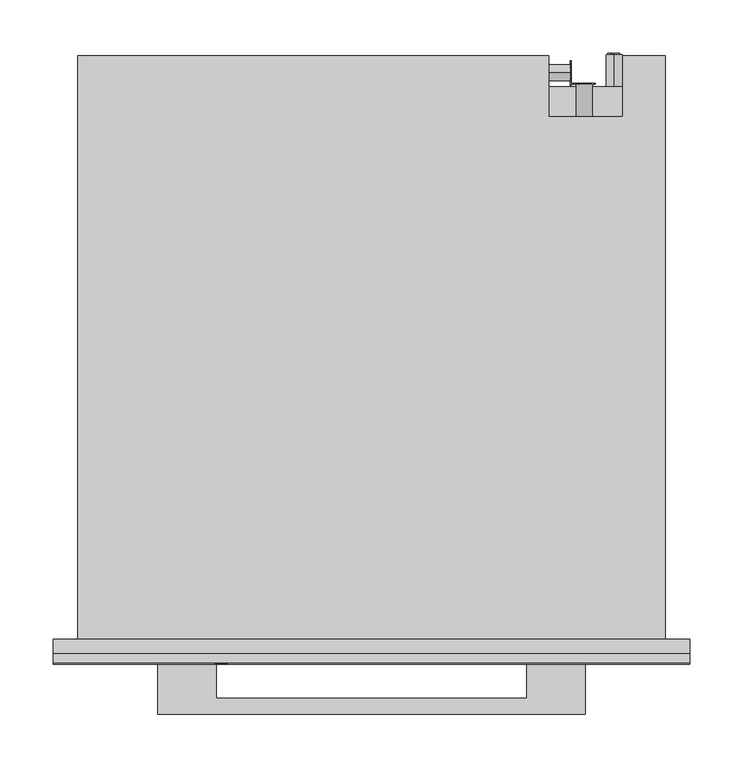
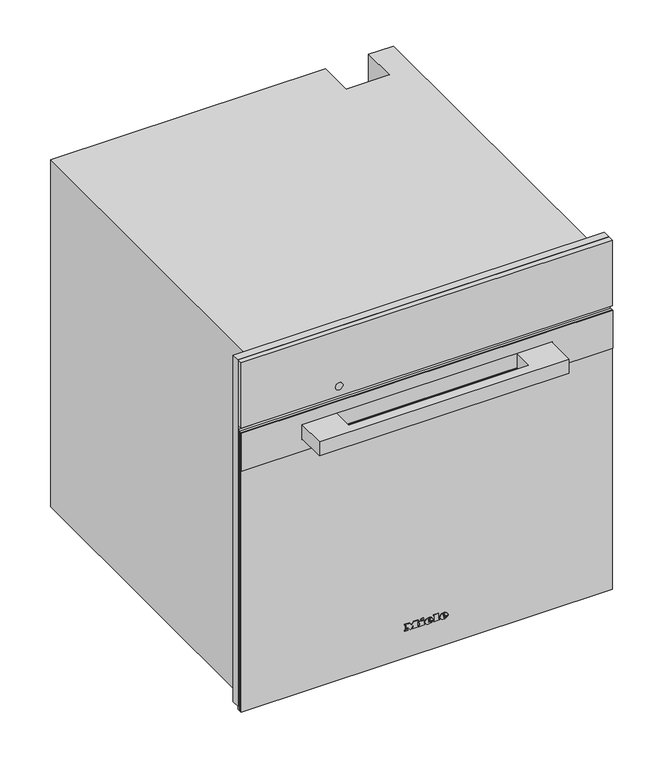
"""IFC4 building model written with IfcOpenShell, lengths in millimetres: proxy geometry, 11107330_D_DGC7865_EDST-CLST : 23786543_D_11107330_DGC7865_EDST-CLST."""

from ifc_helpers import new_model, si_unit, point, frame, frame_2d, origin, place, context, project, spatial, polyline, circle_curve, ellipse_curve, trimmed, segment, composite_curve, outline, extrude, faceted_brep, source, transform, mapped, element, save
from ifc_brep_helpers import plane_surface, cylinder_surface, revolved_surface, extruded_surface, advanced_brep


def specialty_equipment_59f3d35e(model_context):
    return source(origin(), model_context, "Body", "SolidModel", [
        extrude(outline(polyline([(596.0, 297.5), (596.0, -297.5), (9.0, -297.5), (9.0, 297.5), (596.0, 297.5)]), holes=[polyline([(485.0, -272.5), (485.0, 272.5), (27.0, 272.5), (27.0, -272.5), (485.0, -272.5)])]), frame((0.0, -13.0, 0.0), z_axis=(0.0, 1.0, 0.0), x_axis=(0.0, 0.0, 1.0)), (0.0, 0.0, 1.0), 13.0),
        extrude(outline(polyline([(523.0, 196.9217896), (523.0, 198.4267862), (533.0435673, 201.1942402), (533.0435673, 199.9014806), (524.4295103, 197.7797951), (533.0470645, 195.3087512), (533.0470645, 193.4373937), (524.4121052, 190.9191482), (533.0472266, 188.8443938), (533.0472266, 187.5376524), (523.0, 190.2769667), (523.0, 191.6257455), (531.8347238, 194.3884733), (523.0, 196.9217896)])), frame((0.0, 519.0, 0.0), z_axis=(0.0, 1.0, 0.0), x_axis=(0.0, 0.0, 1.0)), (0.0, 0.0, 1.0), 1.0),
        extrude(outline(polyline([(533.0468463, 209.521488), (533.0468463, 208.2566067), (528.129594, 208.2566067), (533.0474898, 203.1074328), (533.0474898, 201.3597489), (528.9313111, 205.6695027), (523.0, 201.1858157), (523.0, 202.7358731), (528.0700777, 206.5685235), (526.4282746, 208.2823622), (523.0, 208.2823622), (523.0, 209.521488), (533.0468463, 209.521488)])), frame((0.0, 519.0, 0.0), z_axis=(0.0, 1.0, 0.0), x_axis=(0.0, 0.0, 1.0)), (0.0, 0.0, 1.0), 1.0),
        extrude(outline(polyline([(518.3136153, 20.0), (522.323529, 30.045631), (523.3928394, 30.045631), (527.4027531, 20.0), (526.0759254, 20.0), (524.925681, 23.1392597), (520.7882348, 23.1392597), (519.640443, 20.0), (518.3136153, 20.0)]), holes=[polyline([(521.2493136, 24.3949636), (524.4670548, 24.3949636), (523.5620651, 26.864678), (522.8581842, 28.7899271), (522.2327848, 27.0805021), (521.2493136, 24.3949636)])]), frame((186.0, 0.0, 0.0), z_axis=(1.0, 0.0, 0.0), x_axis=(0.0, 1.0, 0.0)), (0.0, 0.0, 1.0), 1.0),
        extrude(outline(polyline([(530.5420128, 20.0), (527.8025182, 30.045631), (529.0974628, 30.045631), (530.6867131, 23.4433755), (531.1772224, 21.4053092), (531.7020674, 23.207931), (533.6935352, 30.045631), (535.5599232, 30.045631), (537.0069257, 25.0890343), (538.0835937, 21.4053092), (538.5593878, 23.3845144), (540.1633533, 30.045631), (541.4582979, 30.045631), (538.7163507, 20.0), (537.3748077, 20.0), (534.9664069, 27.7500474), (534.630408, 28.8316204), (534.2527159, 27.5293182), (532.0576866, 20.0), (530.5420128, 20.0)])), frame((186.0, 0.0, 0.0), z_axis=(1.0, 0.0, 0.0), x_axis=(0.0, 1.0, 0.0)), (0.0, 0.0, 1.0), 1.0),
        advanced_brep(
        [(227.0, 547.0, 396.5), (227.0, 547.0, 381.5), (221.4098301, 547.0, 384.0), (225.5, 547.0, 384.0), (225.5, 547.0, 394.0), (224.4955303, 547.0, 394.0), (224.4955303, 547.0, 385.0), (221.0315043, 547.0, 385.0), (221.0315043, 547.0, 384.4582978), (232.0, 547.0, 384.0), (232.0, 547.0, 394.0), (227.0, 547.0, 394.0), (227.0, 547.0, 393.0), (231.0, 547.0, 393.0), (231.0, 547.0, 389.5), (228.0, 547.0, 389.5), (228.0, 547.0, 388.5), (231.0, 547.0, 388.5), (231.0, 547.0, 385.0), (227.0, 547.0, 385.0), (227.0, 547.0, 384.0), (227.0, 517.0, 381.5), (227.0, 517.0, 396.5), (232.0, 548.0, 394.0), (232.0, 548.0, 384.0), (227.0, 548.0, 384.0), (227.0, 548.0, 385.0), (231.0, 548.0, 385.0), (231.0, 548.0, 388.5), (228.0, 548.0, 388.5), (228.0, 548.0, 389.5), (231.0, 548.0, 389.5), (231.0, 548.0, 393.0), (227.0, 548.0, 393.0), (227.0, 548.0, 394.0), (225.5, 548.0, 384.0), (221.0315043, 548.0, 384.0), (221.0315043, 548.0, 385.0), (224.4955303, 548.0, 385.0), (224.4955303, 548.0, 394.0), (225.5, 548.0, 394.0), (221.0315043, 547.0, 384.0)],
        [
            (0, 1, circle_curve(frame((227.0, 547.0, 389.0), z_axis=(0.0, 1.0, 0.0), x_axis=(0.0, 0.0, 1.0)), 7.5)),
            (1, 2, circle_curve(frame((227.0, 547.0, 389.0), z_axis=(0.0, 1.0, 0.0), x_axis=(0.0, 0.0, 1.0)), 7.5)),
            (2, 3),
            (3, 4),
            (4, 5),
            (5, 6),
            (6, 7),
            (7, 8),
            (8, 0, circle_curve(frame((227.0, 547.0, 389.0), z_axis=(0.0, 1.0, 0.0), x_axis=(0.0, 0.0, 1.0)), 7.5)),
            (9, 10),
            (10, 11),
            (11, 12),
            (12, 13),
            (13, 14),
            (14, 15),
            (15, 16),
            (16, 17),
            (17, 18),
            (18, 19),
            (19, 20),
            (20, 9),
            (21, 22, circle_curve(frame((227.0, 517.0, 389.0), z_axis=(0.0, -1.0, 0.0), x_axis=(0.0, 0.0, 1.0)), 7.5)),
            (22, 21, circle_curve(frame((227.0, 517.0, 389.0), z_axis=(0.0, -1.0, 0.0), x_axis=(0.0, 0.0, 1.0)), 7.5)),
            (0, 22),
            (21, 1),
            (8, 2, circle_curve(frame((227.0, 547.0, 389.0), z_axis=(0.0, -1.0, 0.0), x_axis=(0.0, 0.0, 1.0)), 7.5)),
            (23, 24),
            (24, 25),
            (25, 26),
            (26, 27),
            (27, 28),
            (28, 29),
            (29, 30),
            (30, 31),
            (31, 32),
            (32, 33),
            (33, 34),
            (34, 23),
            (35, 36),
            (36, 37),
            (37, 38),
            (38, 39),
            (39, 40),
            (40, 35),
            (8, 41),
            (41, 2),
            (23, 10),
            (9, 24),
            (20, 25),
            (19, 26),
            (18, 27),
            (17, 28),
            (16, 29),
            (15, 30),
            (14, 31),
            (13, 32),
            (12, 33),
            (11, 34),
            (35, 3),
            (41, 36),
            (7, 37),
            (6, 38),
            (5, 39),
            (4, 40),
        ],
        [
            plane_surface(frame((227.0, 547.0, 396.5), z_axis=(0.0, 1.0, 0.0), x_axis=(1.0, 0.0, 0.0))),
            plane_surface(frame((227.0, 517.0, 396.5), z_axis=(0.0, -1.0, 0.0), x_axis=(-1.0, 0.0, 0.0))),
            cylinder_surface(frame((227.0, 547.0, 389.0), z_axis=(0.0, -1.0, 0.0), x_axis=(0.0, 0.0, 1.0)), 7.5),
            plane_surface(frame((232.0, 548.0, 394.0), z_axis=(0.0, 1.0, 0.0), x_axis=(0.0, 0.0, -1.0))),
            plane_surface(frame((232.0, 547.0, 394.0), z_axis=(0.0, -1.0, 0.0), x_axis=(0.0, 0.0, 1.0))),
            plane_surface(frame((232.0, 548.0, 394.0), z_axis=(1.0, 0.0, 0.0), x_axis=(0.0, -1.0, 0.0))),
            plane_surface(frame((232.0, 548.0, 384.0), z_axis=(0.0, 0.0, -1.0), x_axis=(0.0, -1.0, 0.0))),
            plane_surface(frame((227.0, 548.0, 384.0), z_axis=(-1.0, 0.0, 0.0), x_axis=(0.0, -1.0, 0.0))),
            plane_surface(frame((227.0, 548.0, 385.0), z_axis=(0.0, 0.0, 1.0), x_axis=(0.0, -1.0, 0.0))),
            plane_surface(frame((231.0, 548.0, 385.0), z_axis=(-1.0, 0.0, 0.0), x_axis=(0.0, -1.0, 0.0))),
            plane_surface(frame((231.0, 548.0, 388.5), z_axis=(0.0, 0.0, -1.0), x_axis=(0.0, -1.0, 0.0))),
            plane_surface(frame((228.0, 548.0, 388.5), z_axis=(-1.0, 0.0, 0.0), x_axis=(0.0, -1.0, 0.0))),
            plane_surface(frame((228.0, 548.0, 389.5), z_axis=(0.0, 0.0, 1.0), x_axis=(0.0, -1.0, 0.0))),
            plane_surface(frame((231.0, 548.0, 389.5), z_axis=(-1.0, 0.0, 0.0), x_axis=(0.0, -1.0, 0.0))),
            plane_surface(frame((231.0, 548.0, 393.0), z_axis=(0.0, 0.0, -1.0), x_axis=(0.0, -1.0, 0.0))),
            plane_surface(frame((227.0, 548.0, 393.0), z_axis=(-1.0, 0.0, 0.0), x_axis=(0.0, -1.0, 0.0))),
            plane_surface(frame((227.0, 548.0, 394.0), z_axis=(0.0, 0.0, 1.0), x_axis=(0.0, -1.0, 0.0))),
            plane_surface(frame((225.5, 548.0, 384.0), z_axis=(0.0, 0.0, -1.0), x_axis=(0.0, -1.0, 0.0))),
            plane_surface(frame((221.0315043, 548.0, 384.0), z_axis=(-1.0, 0.0, 0.0), x_axis=(0.0, -1.0, 0.0))),
            plane_surface(frame((221.0315043, 548.0, 385.0), z_axis=(0.0, 0.0, 1.0), x_axis=(0.0, -1.0, 0.0))),
            plane_surface(frame((224.4955303, 548.0, 385.0), z_axis=(-1.0, 0.0, 0.0), x_axis=(0.0, -1.0, 0.0))),
            plane_surface(frame((224.4955303, 548.0, 394.0), z_axis=(0.0, 0.0, 1.0), x_axis=(0.0, -1.0, 0.0))),
            plane_surface(frame((225.5, 548.0, 394.0), z_axis=(1.0, 0.0, 0.0), x_axis=(0.0, -1.0, 0.0))),
        ],
        [
            (0, [[1, 2, 3, 4, 5, 6, 7, 8, 9], [10, 11, 12, 13, 14, 15, 16, 17, 18, 19, 20, 21]]),
            (1, [[22, 23]]),
            (2, [[-1, 24, -22, 25]]),
            (2, [[-23, -24, -9, 26, -2, -25]]),
            (3, [[27, 28, 29, 30, 31, 32, 33, 34, 35, 36, 37, 38]]),
            (3, [[39, 40, 41, 42, 43, 44]]),
            (4, [[45, 46, -26]]),
            (5, [[-27, 47, -10, 48]]),
            (6, [[-28, -48, -21, 49]]),
            (7, [[-29, -49, -20, 50]]),
            (8, [[-30, -50, -19, 51]]),
            (9, [[-31, -51, -18, 52]]),
            (10, [[-32, -52, -17, 53]]),
            (11, [[-33, -53, -16, 54]]),
            (12, [[-34, -54, -15, 55]]),
            (13, [[-35, -55, -14, 56]]),
            (14, [[-36, -56, -13, 57]]),
            (15, [[-37, -57, -12, 58]]),
            (16, [[-38, -58, -11, -47]]),
            (17, [[-39, 59, -3, -46, 60]]),
            (18, [[-40, -60, -45, -8, 61]]),
            (19, [[-41, -61, -7, 62]]),
            (20, [[-42, -62, -6, 63]]),
            (21, [[-43, -63, -5, 64]]),
            (22, [[-44, -64, -4, -59]]),
        ],
    ),
        extrude(outline(composite_curve([segment(trimmed(circle_curve(frame_2d((528.0, 199.0)), 7.5), [point((528.0, 206.5))], [point((528.0, 191.5))], False, "CARTESIAN"), True, "CONTINUOUS"), segment(trimmed(circle_curve(frame_2d((528.0, 199.0)), 7.5), [point((528.0, 191.5))], [point((528.0, 206.5))], False, "CARTESIAN"), True, "CONTINUOUS")], self_intersect=False)), frame((0.0, 489.0, 0.0), z_axis=(0.0, 1.0, 0.0), x_axis=(0.0, 0.0, 1.0)), (0.0, 0.0, 1.0), 30.0),
        extrude(outline(composite_curve([segment(trimmed(circle_curve(frame_2d((530.0, 25.0)), 7.5), [point((530.0, 17.5))], [point((530.0, 32.5))], False, "CARTESIAN"), True, "CONTINUOUS"), segment(trimmed(circle_curve(frame_2d((530.0, 25.0)), 7.5), [point((530.0, 32.5))], [point((530.0, 17.5))], False, "CARTESIAN"), True, "CONTINUOUS")], self_intersect=False)), frame((166.0, 0.0, 0.0), z_axis=(1.0, 0.0, 0.0), x_axis=(0.0, 1.0, 0.0)), (0.0, 0.0, 1.0), 20.0),
        faceted_brep([(-275.0, 546.0, 0.0), (-275.0, 546.0, 588.0), (166.0, 546.0, 588.0), (166.0, 546.0, 0.0), (235.0, 546.0, 588.0), (275.0, 546.0, 588.0), (275.0, 546.0, 478.0), (235.0, 546.0, 478.0), (275.0, 0.0, 588.0), (-275.0, 0.0, 588.0), (-275.0, 0.0, 0.0), (275.0, 0.0, 0.0), (-272.5, 0.0, 485.0), (272.5, 0.0, 485.0), (272.5, 0.0, 27.0), (-272.5, 0.0, 27.0), (235.0, 489.0, 588.0), (166.0, 489.0, 588.0), (166.0, 517.0, 0.0), (275.0, 517.0, 0.0), (275.0, 517.0, 478.0), (272.5, 17.0, 485.0), (-272.5, 17.0, 485.0), (-272.5, 17.0, 27.0), (272.5, 17.0, 27.0), (231.0, 17.0, 409.0), (231.0, 17.0, 61.0), (-231.0, 17.0, 61.0), (-231.0, 17.0, 409.0), (231.0, 411.0, 409.0), (-231.0, 411.0, 409.0), (-231.0, 411.0, 61.0), (231.0, 411.0, 61.0), (235.0, 489.0, 477.0), (166.0, 489.0, 477.0), (166.0, 517.0, 477.0), (235.0, 517.0, 477.0), (235.0, 517.0, 478.0)], [[[0, 1, 2, 3]], [[4, 5, 6, 7]], [[8, 9, 10, 11], [12, 13, 14, 15]], [[9, 8, 5, 4, 16, 17, 2, 1]], [[1, 0, 10, 9]], [[11, 10, 0, 3, 18, 19]], [[8, 11, 19, 20, 6, 5]], [[21, 22, 23, 24], [25, 26, 27, 28]], [[22, 21, 13, 12]], [[23, 22, 12, 15]], [[24, 23, 15, 14]], [[21, 24, 14, 13]], [[29, 30, 31, 32]], [[29, 32, 26, 25]], [[32, 31, 27, 26]], [[31, 30, 28, 27]], [[30, 29, 25, 28]], [[16, 33, 34, 17]], [[17, 34, 35, 18, 3, 2]], [[34, 33, 36, 35]], [[33, 16, 4, 7, 37, 36]], [[37, 20, 19, 18, 35, 36]], [[20, 37, 7, 6]]]),
        advanced_brep(
        [(26.2998, -23.0, 52.7018), (26.2998, -23.0, 53.8532), (33.9264, -23.0, 53.8532), (20.6568, -23.0, 53.8532), (23.7918, -23.0, 50.0), (33.7326, -23.0, 52.7018), (30.2898, -23.0, 52.7018), (27.5766, -23.0, 51.425), (26.2998, -23.0, 55.3124), (26.2998, -23.0, 56.555), (28.2492, -23.0, 56.555), (28.2492, -23.0, 55.3124), (26.2998, -22.0, 52.7018), (27.5766, -22.0, 51.425), (30.2898, -22.0, 52.7018), (33.7326, -22.0, 52.7018), (23.7918, -22.0, 50.0), (20.6568, -22.0, 53.8532), (33.9264, -22.0, 53.8532), (26.2998, -22.0, 53.8532), (26.2998, -22.0, 55.3124), (28.2492, -22.0, 55.3124), (28.2492, -22.0, 56.555), (26.2998, -22.0, 56.555)],
        [
            (0, 1),
            (1, 2),
            (2, 3, ellipse_curve(frame((27.2916, -23.0, 53.8532), z_axis=(0.0, -1.0, 0.0), x_axis=(-1.0, 0.0, 0.0)), 6.6348, 5.4834)),
            (3, 4, circle_curve(frame((25.0686622, -23.0, 54.2408), z_axis=(0.0, -1.0, 0.0), x_axis=(0.0, 0.0, -1.0)), 4.4288556)),
            (4, 5, circle_curve(frame((27.1587808, -23.0, 57.2504), z_axis=(0.0, -1.0, 0.0), x_axis=(0.0, 0.0, -1.0)), 7.9940516)),
            (5, 6),
            (6, 7, circle_curve(frame((28.1338588, -23.0, 53.762), z_axis=(0.0, 1.0, 0.0), x_axis=(0.0, 0.0, -1.0)), 2.4025208)),
            (7, 0, circle_curve(frame((27.5766, -23.0, 52.7018), z_axis=(0.0, 1.0, 0.0), x_axis=(0.0, 0.0, -1.0)), 1.2768)),
            (8, 9),
            (9, 10, circle_curve(frame((27.2745, -23.0, 56.555), z_axis=(0.0, 1.0, 0.0), x_axis=(0.0, 0.0, -1.0)), 0.9747)),
            (10, 11),
            (11, 8),
            (12, 13, circle_curve(frame((27.5766, -22.0, 52.7018), z_axis=(0.0, -1.0, 0.0), x_axis=(0.0, 0.0, -1.0)), 1.2768)),
            (13, 14, circle_curve(frame((28.1338588, -22.0, 53.762), z_axis=(0.0, -1.0, 0.0), x_axis=(0.0, 0.0, -1.0)), 2.4025208)),
            (14, 15),
            (15, 16, circle_curve(frame((27.1587808, -22.0, 57.2504), z_axis=(0.0, 1.0, 0.0), x_axis=(0.0, 0.0, -1.0)), 7.9940516)),
            (16, 17, circle_curve(frame((25.0686622, -22.0, 54.2408), z_axis=(0.0, 1.0, 0.0), x_axis=(0.0, 0.0, -1.0)), 4.4288556)),
            (17, 18, ellipse_curve(frame((27.2916, -22.0, 53.8532), z_axis=(0.0, 1.0, 0.0), x_axis=(-1.0, 0.0, 0.0)), 6.6348, 5.4834)),
            (18, 19),
            (19, 12),
            (20, 21),
            (21, 22),
            (22, 23, circle_curve(frame((27.2745, -22.0, 56.555), z_axis=(0.0, -1.0, 0.0), x_axis=(0.0, 0.0, -1.0)), 0.9747)),
            (23, 20),
            (0, 12),
            (19, 1),
            (18, 2),
            (5, 15),
            (14, 6),
            (17, 3),
            (13, 7),
            (16, 4),
            (8, 20),
            (23, 9),
            (22, 10),
            (21, 11),
        ],
        [
            plane_surface(frame((26.2998, -23.0, 53.8532), z_axis=(0.0, -1.0, 0.0), x_axis=(0.0, 0.0, 1.0))),
            plane_surface(frame((26.2998, -22.0, 53.8532), z_axis=(0.0, 1.0, 0.0), x_axis=(0.0, 0.0, -1.0))),
            plane_surface(frame((26.2998, -23.0, 52.7018), z_axis=(1.0, 0.0, 0.0), x_axis=(0.0, 1.0, 0.0))),
            plane_surface(frame((26.2998, -23.0, 53.8532), z_axis=(0.0, 0.0, -1.0), x_axis=(0.0, 1.0, 0.0))),
            plane_surface(frame((33.7326, -23.0, 52.7018), z_axis=(0.0, 0.0, 1.0), x_axis=(0.0, 1.0, 0.0))),
            extruded_surface(trimmed(ellipse_curve(frame((27.2916, -21.0, 53.8532), z_axis=(0.0, -1.0, 0.0), x_axis=(-1.0, 0.0, 0.0)), 6.6348, 5.4834), [point((33.9264, -21.0, 53.8532))], [point((20.6568, -21.0, 53.8532))], True, "CARTESIAN"), (0.0, -1.0, 0.0), 1.0),
            revolved_surface(polyline([(28.1338588, -22.0, 51.3594792), (28.1338588, -23.0, 51.3594792)]), (28.1338588, -22.0, 53.762), (0.0, 1.0, 0.0)),
            revolved_surface(polyline([(27.5766, -22.0, 51.425), (27.5766, -23.0, 51.425)]), (27.5766, -22.0, 52.7018), (0.0, 1.0, 0.0)),
            cylinder_surface(frame((25.0686622, -22.0, 54.2408), z_axis=(0.0, -1.0, 0.0), x_axis=(0.0, 0.0, -1.0)), 4.4288556),
            cylinder_surface(frame((27.1587808, -22.0, 57.2504), z_axis=(0.0, -1.0, 0.0), x_axis=(0.0, 0.0, -1.0)), 7.9940516),
            plane_surface(frame((26.2998, -23.0, 55.3124), z_axis=(1.0, 0.0, 0.0), x_axis=(0.0, 1.0, 0.0))),
            revolved_surface(polyline([(27.2745, -22.0, 55.5803), (27.2745, -23.0, 55.5803)]), (27.2745, -22.0, 56.555), (0.0, 1.0, 0.0)),
            plane_surface(frame((28.2492, -23.0, 56.555), z_axis=(-1.0, 0.0, 0.0), x_axis=(0.0, 1.0, 0.0))),
            plane_surface(frame((28.2492, -23.0, 55.3124), z_axis=(0.0, 0.0, 1.0), x_axis=(0.0, 1.0, 0.0))),
        ],
        [
            (0, [[1, 2, 3, 4, 5, 6, 7, 8], [9, 10, 11, 12]]),
            (1, [[13, 14, 15, 16, 17, 18, 19, 20], [21, 22, 23, 24]]),
            (2, [[-1, 25, -20, 26]]),
            (3, [[-2, -26, -19, 27]]),
            (4, [[-6, 28, -15, 29]]),
            (5, [[-3, -27, -18, 30]]),
            (6, [[-7, -29, -14, 31]]),
            (7, [[-8, -31, -13, -25]]),
            (8, [[-4, -30, -17, 32]]),
            (9, [[-5, -32, -16, -28]]),
            (10, [[-9, 33, -24, 34]]),
            (11, [[-10, -34, -23, 35]]),
            (12, [[-11, -35, -22, 36]]),
            (13, [[-12, -36, -21, -33]]),
        ],
    ),
        advanced_brep(
        [(2.508, -23.0, 52.7018), (2.508, -23.0, 53.8532), (10.1346, -23.0, 53.8532), (-3.135, -23.0, 53.8532), (0.0, -23.0, 50.0), (9.9408, -23.0, 52.7018), (6.498, -23.0, 52.7018), (3.7848, -23.0, 51.425), (2.508, -23.0, 55.3124), (2.508, -23.0, 56.555), (4.4574, -23.0, 56.555), (4.4574, -23.0, 55.3124), (2.508, -22.0, 52.7018), (3.7848, -22.0, 51.425), (6.498, -22.0, 52.7018), (9.9408, -22.0, 52.7018), (0.0, -22.0, 50.0), (-3.135, -22.0, 53.8532), (10.1346, -22.0, 53.8532), (2.508, -22.0, 53.8532), (2.508, -22.0, 55.3124), (4.4574, -22.0, 55.3124), (4.4574, -22.0, 56.555), (2.508, -22.0, 56.555)],
        [
            (0, 1),
            (1, 2),
            (2, 3, ellipse_curve(frame((3.4998, -23.0, 53.8532), z_axis=(0.0, -1.0, 0.0), x_axis=(-1.0, 0.0, 0.0)), 6.6348, 5.4834)),
            (3, 4, circle_curve(frame((1.2768622, -23.0, 54.2408), z_axis=(0.0, -1.0, 0.0), x_axis=(0.0, 0.0, -1.0)), 4.4288556)),
            (4, 5, circle_curve(frame((3.3669808, -23.0, 57.2504), z_axis=(0.0, -1.0, 0.0), x_axis=(0.0, 0.0, -1.0)), 7.9940516)),
            (5, 6),
            (6, 7, circle_curve(frame((4.3420588, -23.0, 53.762), z_axis=(0.0, 1.0, 0.0), x_axis=(0.0, 0.0, -1.0)), 2.4025208)),
            (7, 0, circle_curve(frame((3.7848, -23.0, 52.7018), z_axis=(0.0, 1.0, 0.0), x_axis=(0.0, 0.0, -1.0)), 1.2768)),
            (8, 9),
            (9, 10, circle_curve(frame((3.4827, -23.0, 56.555), z_axis=(0.0, 1.0, 0.0), x_axis=(0.0, 0.0, -1.0)), 0.9747)),
            (10, 11),
            (11, 8),
            (12, 13, circle_curve(frame((3.7848, -22.0, 52.7018), z_axis=(0.0, -1.0, 0.0), x_axis=(0.0, 0.0, -1.0)), 1.2768)),
            (13, 14, circle_curve(frame((4.3420588, -22.0, 53.762), z_axis=(0.0, -1.0, 0.0), x_axis=(0.0, 0.0, -1.0)), 2.4025208)),
            (14, 15),
            (15, 16, circle_curve(frame((3.3669808, -22.0, 57.2504), z_axis=(0.0, 1.0, 0.0), x_axis=(0.0, 0.0, -1.0)), 7.9940516)),
            (16, 17, circle_curve(frame((1.2768622, -22.0, 54.2408), z_axis=(0.0, 1.0, 0.0), x_axis=(0.0, 0.0, -1.0)), 4.4288556)),
            (17, 18, ellipse_curve(frame((3.4998, -22.0, 53.8532), z_axis=(0.0, 1.0, 0.0), x_axis=(-1.0, 0.0, 0.0)), 6.6348, 5.4834)),
            (18, 19),
            (19, 12),
            (20, 21),
            (21, 22),
            (22, 23, circle_curve(frame((3.4827, -22.0, 56.555), z_axis=(0.0, -1.0, 0.0), x_axis=(0.0, 0.0, -1.0)), 0.9747)),
            (23, 20),
            (0, 12),
            (19, 1),
            (18, 2),
            (5, 15),
            (14, 6),
            (17, 3),
            (13, 7),
            (16, 4),
            (8, 20),
            (23, 9),
            (22, 10),
            (21, 11),
        ],
        [
            plane_surface(frame((2.508, -23.0, 53.8532), z_axis=(0.0, -1.0, 0.0), x_axis=(0.0, 0.0, 1.0))),
            plane_surface(frame((2.508, -22.0, 53.8532), z_axis=(0.0, 1.0, 0.0), x_axis=(0.0, 0.0, -1.0))),
            plane_surface(frame((2.508, -23.0, 52.7018), z_axis=(1.0, 0.0, 0.0), x_axis=(0.0, 1.0, 0.0))),
            plane_surface(frame((2.508, -23.0, 53.8532), z_axis=(0.0, 0.0, -1.0), x_axis=(0.0, 1.0, 0.0))),
            plane_surface(frame((9.9408, -23.0, 52.7018), z_axis=(0.0, 0.0, 1.0), x_axis=(0.0, 1.0, 0.0))),
            extruded_surface(trimmed(ellipse_curve(frame((3.4998, -21.0, 53.8532), z_axis=(0.0, -1.0, 0.0), x_axis=(-1.0, 0.0, 0.0)), 6.6348, 5.4834), [point((10.1346, -21.0, 53.8532))], [point((-3.135, -21.0, 53.8532))], True, "CARTESIAN"), (0.0, -1.0, 0.0), 1.0),
            revolved_surface(polyline([(4.3420588, -22.0, 51.3594792), (4.3420588, -23.0, 51.3594792)]), (4.3420588, -22.0, 53.762), (0.0, 1.0, 0.0)),
            revolved_surface(polyline([(3.7848, -22.0, 51.425), (3.7848, -23.0, 51.425)]), (3.7848, -22.0, 52.7018), (0.0, 1.0, 0.0)),
            cylinder_surface(frame((1.2768622, -22.0, 54.2408), z_axis=(0.0, -1.0, 0.0), x_axis=(0.0, 0.0, -1.0)), 4.4288556),
            cylinder_surface(frame((3.3669808, -22.0, 57.2504), z_axis=(0.0, -1.0, 0.0), x_axis=(0.0, 0.0, -1.0)), 7.9940516),
            plane_surface(frame((2.508, -23.0, 55.3124), z_axis=(1.0, 0.0, 0.0), x_axis=(0.0, 1.0, 0.0))),
            revolved_surface(polyline([(3.4827, -22.0, 55.5803), (3.4827, -23.0, 55.5803)]), (3.4827, -22.0, 56.555), (0.0, 1.0, 0.0)),
            plane_surface(frame((4.4574, -23.0, 56.555), z_axis=(-1.0, 0.0, 0.0), x_axis=(0.0, 1.0, 0.0))),
            plane_surface(frame((4.4574, -23.0, 55.3124), z_axis=(0.0, 0.0, 1.0), x_axis=(0.0, 1.0, 0.0))),
        ],
        [
            (0, [[1, 2, 3, 4, 5, 6, 7, 8], [9, 10, 11, 12]]),
            (1, [[13, 14, 15, 16, 17, 18, 19, 20], [21, 22, 23, 24]]),
            (2, [[-1, 25, -20, 26]]),
            (3, [[-2, -26, -19, 27]]),
            (4, [[-6, 28, -15, 29]]),
            (5, [[-3, -27, -18, 30]]),
            (6, [[-7, -29, -14, 31]]),
            (7, [[-8, -31, -13, -25]]),
            (8, [[-4, -30, -17, 32]]),
            (9, [[-5, -32, -16, -28]]),
            (10, [[-9, 33, -24, 34]]),
            (11, [[-10, -34, -23, 35]]),
            (12, [[-11, -35, -22, 36]]),
            (13, [[-12, -36, -21, -33]]),
        ],
    ),
        extrude(outline(polyline([(60.7274, -9.9522), (58.8806, -9.0858), (60.6818, -5.2212), (62.5286, -6.0762), (60.7274, -9.9522)])), frame((0.0, -23.0, 0.0), z_axis=(0.0, 1.0, 0.0), x_axis=(0.0, 0.0, 1.0)), (0.0, 0.0, 1.0), 1.0),
        extrude(outline(polyline([(58.6298, -12.768), (56.5892, -12.768), (56.5892, -11.4114), (51.9152, -11.4114), (51.9152, -12.768), (50.0, -12.768), (50.0, -3.7734), (51.9152, -3.7734), (51.9152, -5.0958), (58.6298, -5.0958), (58.6298, -12.768)])), frame((0.0, -23.0, 0.0), z_axis=(0.0, 1.0, 0.0), x_axis=(0.0, 0.0, 1.0)), (0.0, 0.0, 1.0), 1.0),
        extrude(outline(polyline([(59.5418, 10.773), (59.5418, 12.141), (51.9152, 12.141), (51.9152, 10.773), (50.0, 10.773), (50.0, 20.0184), (51.9152, 20.0184), (51.9152, 18.6162), (61.4, 18.6162), (61.4, 10.773), (59.5418, 10.773)])), frame((0.0, -23.0, 0.0), z_axis=(0.0, 1.0, 0.0), x_axis=(0.0, 0.0, 1.0)), (0.0, 0.0, 1.0), 1.0),
        extrude(outline(polyline([(59.5418, -35.4882), (59.5418, -34.1088), (51.9152, -34.1088), (51.9152, -35.4882), (50.0, -35.4882), (50.0, -30.4722), (51.9152, -30.4722), (51.9152, -31.8402), (56.7429247, -31.8402), (50.0, -26.7444), (56.9402223, -21.6258), (51.9152, -21.6258), (51.9152, -23.028), (50.0, -23.028), (50.0, -13.9308), (51.9152, -13.9308), (51.9152, -15.3786), (59.5418, -15.3786), (59.5418, -13.9308), (61.4, -13.9308), (61.4, -20.8734), (57.125, -24.2022), (61.4, -27.5424), (61.4, -35.4882), (59.5418, -35.4882)])), frame((0.0, -23.0, 0.0), z_axis=(0.0, 1.0, 0.0), x_axis=(0.0, 0.0, 1.0)), (0.0, 0.0, 1.0), 1.0),
        extrude(outline(polyline([(297.5, -22.0), (-297.5, -22.0), (-297.5, -13.0), (297.5, -13.0), (297.5, -22.0)])), frame((0.0, 0.0, 485.0), z_axis=(0.0, 0.0, 1.0), x_axis=(1.0, 0.0, 0.0)), (0.0, 0.0, 1.0), 111.0),
        extrude(outline(composite_curve([segment(trimmed(circle_curve(frame_2d((502.0, -140.5745637)), 6.0), [point((502.0, -146.5745637))], [point((502.0, -134.5745637))], False, "CARTESIAN"), True, "CONTINUOUS"), segment(trimmed(circle_curve(frame_2d((502.0, -140.5745637)), 6.0), [point((502.0, -134.5745637))], [point((502.0, -146.5745637))], False, "CARTESIAN"), True, "CONTINUOUS")], self_intersect=False)), frame((0.0, -22.5, 0.0), z_axis=(0.0, 1.0, 0.0), x_axis=(0.0, 0.0, 1.0)), (0.0, 0.0, 1.0), 1.0),
        extrude(outline(polyline([(478.0, 297.5), (478.0, -297.5), (413.0, -297.5), (413.0, 297.5), (478.0, 297.5)]), holes=[polyline([(458.0, -200.5), (458.0, 200.5), (433.0, 200.5), (433.0, -200.5), (458.0, -200.5)])]), frame((0.0, -23.3, 0.0), z_axis=(0.0, 1.0, 0.0), x_axis=(0.0, 0.0, 1.0)), (0.0, 0.0, 1.0), 1.3),
        extrude(outline(polyline([(-200.0, -70.3), (-200.0, -22.0), (-145.0, -22.0), (-145.0, -55.3), (145.0, -55.3), (145.0, -22.0), (200.0, -22.0), (200.0, -70.3), (-200.0, -70.3)])), frame((0.0, 0.0, 433.5), z_axis=(0.0, 0.0, 1.0), x_axis=(1.0, 0.0, 0.0)), (0.0, 0.0, 1.0), 24.0),
        extrude(outline(polyline([(-297.5, -18.0), (297.5, -18.0), (297.5, -22.0), (-297.5, -22.0), (-297.5, -18.0)])), frame((0.0, 0.0, 4.0), z_axis=(0.0, 0.0, 1.0), x_axis=(1.0, 0.0, 0.0)), (0.0, 0.0, 1.0), 474.0),
        extrude(outline(polyline([(297.5, -18.0), (-297.5, -18.0), (-297.5, -13.0), (297.5, -13.0), (297.5, -18.0)])), frame((0.0, 0.0, 4.0), z_axis=(0.0, 0.0, 1.0), x_axis=(1.0, 0.0, 0.0)), (0.0, 0.0, 1.0), 474.0),
    ])


if __name__ == "__main__":
    model = new_model("IFC4")
    model_context = context("Model", 3, world=origin())
    ifc_project = project(units=[si_unit("LENGTHUNIT", "METRE", prefix="MILLI")], contexts=[model_context])
    site = spatial("IfcSite", under=ifc_project)
    building = spatial("IfcBuilding", under=site)
    placement = place(None, origin())
    specialty_equipment_shape = specialty_equipment_59f3d35e(model_context)
    element("IfcBuildingElementProxy", 1, Name="11107330_D_DGC7865_EDST-CLST : 23786543_D_11107330_DGC7865_EDST-CLST", ObjectType="11107330_D_DGC7865_EDST-CLST : 23786543_D_11107330_DGC7865_EDST-CLST", at=placement, inside=building, context=model_context, shape_type="MappedRepresentation", body=[
        mapped(specialty_equipment_shape, transform((0.0, 0.0, 0.0), x_axis=(1.0, 0.0, 0.0), y_axis=(0.0, 1.0, 0.0), z_axis=(0.0, 0.0, 1.0))),
    ])
    save(model, "model.ifc")
